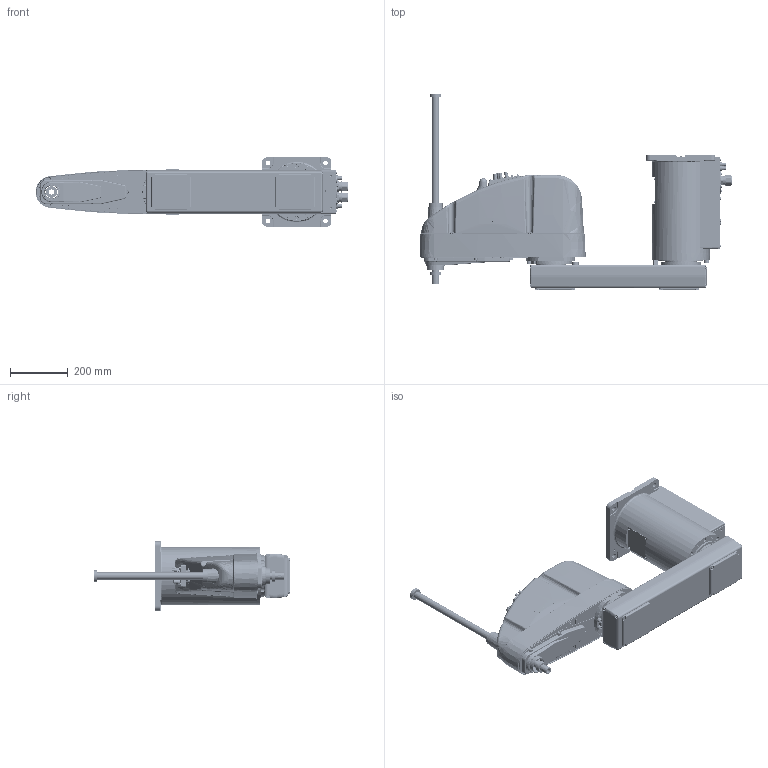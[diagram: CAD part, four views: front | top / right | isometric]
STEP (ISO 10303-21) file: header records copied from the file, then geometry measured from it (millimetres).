
FILE_DESCRIPTION((''),'2;1');
FILE_NAME('C_G10-854SR_ASM','2008-02-27T',('0179539'),(''),'PRO/ENGINEER BY PARAMETRIC TECHNOLOGY CORPORATION, 2004090','PRO/ENGINEER BY PARAMETRIC TECHNOLOGY CORPORATION, 2004090','');
FILE_SCHEMA(('CONFIG_CONTROL_DESIGN'));
Length unit declared in the file: millimetre
Products named in the file (5): BASE2_L; ARM2_85; BODY_L; ZL_4; C_G10-854SR_ASM
Assembly tree (4 placements, depth 2):
  C_G10-854SR_ASM
    BASE2_L
    ARM2_85
    BODY_L
    ZL_4
Bounding box: 1084.34 x 681.5 x 240 mm (x, y, z)
Volume: 10276589.4 mm3; surface area: 3038326.9 mm2
Topology: 6 solids, 6 shells, 4811 faces, 12062 edges, 7682 vertices
Faces by surface type: plane 2306, cylinder 1498, cone 466, bspline 302, torus 188, extrusion 49, sphere 2
Entity records: 171667 total; most frequent: CARTESIAN_POINT 56271, ORIENTED_EDGE 23976, DIRECTION 23791, EDGE_CURVE 11988, AXIS2_PLACEMENT_3D 8488, VERTEX_POINT 7682, VECTOR 6815, LINE 6766
